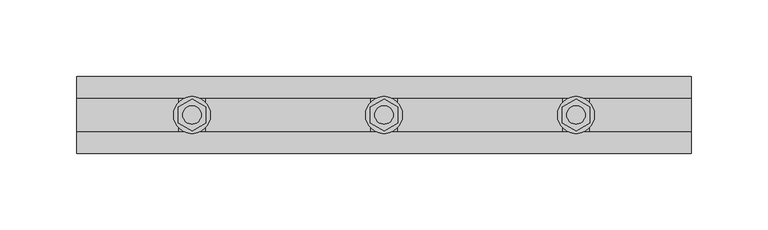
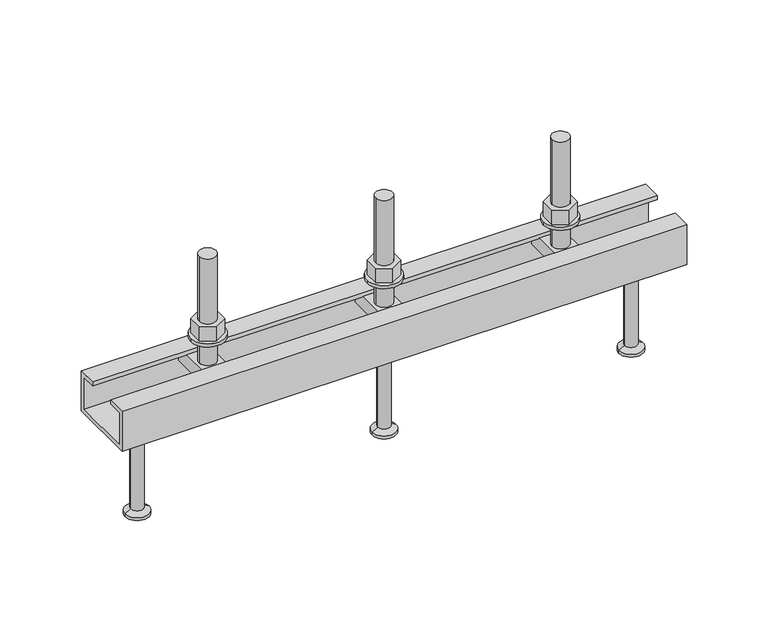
"""IFC4 building model written with IfcOpenShell, lengths in millimetres: fastener geometry, JTA-K JORDAHL® AnchorChannels : JTA-K L=400 mm."""

from ifc_helpers import new_model, si_unit, point, frame, frame_2d, origin, place, context, project, spatial, polyline, circle_curve, trimmed, segment, composite_curve, outline, extrude, source, transform, mapped, element, save
from ifc_brep_helpers import plane_surface, cylinder_surface, revolved_surface, advanced_brep


def fastener_8c050877(model_context):
    return source(origin(), model_context, "Body", "SolidModel", [
        extrude(outline(polyline([(200.0, -10.3923048), (191.0, -5.1961524), (191.0, 5.1961524), (200.0, 10.3923048), (209.0, 5.1961524), (209.0, -5.1961524), (200.0, -10.3923048)]), holes=[composite_curve([segment(trimmed(circle_curve(frame_2d((200.0, 0.0)), 6.0), [point((194.0, 0.0))], [point((206.0, 0.0))], True, "CARTESIAN"), True, "CONTINUOUS"), segment(trimmed(circle_curve(frame_2d((200.0, 0.0)), 6.0), [point((206.0, 0.0))], [point((194.0, 0.0))], True, "CARTESIAN"), True, "CONTINUOUS")], self_intersect=False)]), frame((0.0, 0.0, 17.5), z_axis=(0.0, 0.0, 1.0), x_axis=(1.0, 0.0, 0.0)), (0.0, 0.0, 1.0), 10.8),
        extrude(outline(composite_curve([segment(trimmed(circle_curve(frame_2d((200.0, 0.0)), 12.0), [point((188.0, 0.0))], [point((212.0, 0.0))], False, "CARTESIAN"), True, "CONTINUOUS"), segment(trimmed(circle_curve(frame_2d((200.0, 0.0)), 12.0), [point((212.0, 0.0))], [point((188.0, 0.0))], False, "CARTESIAN"), True, "CONTINUOUS")], self_intersect=False), holes=[composite_curve([segment(trimmed(circle_curve(frame_2d((200.0, 0.0)), 6.5), [point((193.5, 0.0))], [point((206.5, 0.0))], True, "CARTESIAN"), True, "CONTINUOUS"), segment(trimmed(circle_curve(frame_2d((200.0, 0.0)), 6.5), [point((206.5, 0.0))], [point((193.5, 0.0))], True, "CARTESIAN"), True, "CONTINUOUS")], self_intersect=False)]), frame((0.0, 0.0, 15.0), z_axis=(0.0, 0.0, 1.0), x_axis=(1.0, 0.0, 0.0)), (0.0, 0.0, 1.0), 2.5),
        advanced_brep(
        [(208.5, -20.7, -3.0), (208.5, -20.7, -13.0), (208.5, 20.7, -13.0), (208.5, 20.7, -3.0), (191.5, -20.7, -3.0), (191.5, 20.7, -3.0), (191.5, 20.7, -13.0), (191.5, -20.7, -13.0), (206.0, 0.0, -3.0), (194.0, 0.0, -3.0), (194.0, 0.0, 77.0), (206.0, 0.0, 77.0)],
        [
            (0, 1),
            (1, 2),
            (2, 3),
            (3, 0),
            (4, 5),
            (5, 6),
            (6, 7),
            (7, 4),
            (3, 5),
            (4, 0),
            (8, 9, circle_curve(frame((200.0, 0.0, -3.0), z_axis=(0.0, 0.0, -1.0), x_axis=(1.0, 0.0, 0.0)), 6.0)),
            (9, 8, circle_curve(frame((200.0, 0.0, -3.0), z_axis=(0.0, 0.0, -1.0), x_axis=(1.0, 0.0, 0.0)), 6.0)),
            (2, 6),
            (1, 7),
            (10, 11, circle_curve(frame((200.0, 0.0, 77.0), z_axis=(0.0, 0.0, 1.0), x_axis=(1.0, 0.0, 0.0)), 6.0)),
            (11, 10, circle_curve(frame((200.0, 0.0, 77.0), z_axis=(0.0, 0.0, 1.0), x_axis=(1.0, 0.0, 0.0)), 6.0)),
            (11, 8),
            (9, 10),
        ],
        [
            plane_surface(frame((208.5, 20.7, -3.0), z_axis=(1.0, 0.0, 0.0), x_axis=(0.0, 1.0, 0.0))),
            plane_surface(frame((191.5, 20.7, -3.0), z_axis=(-1.0, 0.0, 0.0), x_axis=(0.0, -1.0, 0.0))),
            plane_surface(frame((208.5, -20.7, -3.0), z_axis=(0.0, 0.0, 1.0), x_axis=(-1.0, 0.0, 0.0))),
            plane_surface(frame((208.5, 20.7, -3.0), z_axis=(0.0, 1.0, 0.0), x_axis=(-1.0, 0.0, 0.0))),
            plane_surface(frame((208.5, 20.7, -13.0), z_axis=(0.0, 0.0, -1.0), x_axis=(-1.0, 0.0, 0.0))),
            plane_surface(frame((208.5, -20.7, -13.0), z_axis=(0.0, -1.0, 0.0), x_axis=(-1.0, 0.0, 0.0))),
            plane_surface(frame((206.0, 0.0, 77.0), z_axis=(0.0, 0.0, 1.0), x_axis=(0.0, -1.0, 0.0))),
            cylinder_surface(frame((200.0, 0.0, -3.0), z_axis=(0.0, 0.0, 1.0), x_axis=(1.0, 0.0, 0.0)), 6.0),
        ],
        [
            (0, [[1, 2, 3, 4]]),
            (1, [[5, 6, 7, 8]]),
            (2, [[9, -5, 10, -4], [11, 12]]),
            (3, [[13, -6, -9, -3]]),
            (4, [[14, -7, -13, -2]]),
            (5, [[-10, -8, -14, -1]]),
            (6, [[15, 16]]),
            (7, [[17, -12, 18, -16]]),
            (7, [[-18, -11, -17, -15]]),
        ],
    ),
        advanced_brep(
        [(200.0, 0.0, -30.0), (186.5, 0.0, -30.0), (213.5, 0.0, -30.0), (191.5, 0.0, -100.0), (200.0, 0.0, -100.0), (208.5, 0.0, -100.0), (191.5, 0.0, -98.0), (208.5, 0.0, -98.0), (195.5, 0.0, -95.6905989), (204.5, 0.0, -95.6905989), (195.5, 0.0, -32.5), (204.5, 0.0, -32.5)],
        [
            (0, 1),
            (1, 2, circle_curve(frame((200.0, 0.0, -30.0), z_axis=(0.0, 0.0, 1.0), x_axis=(1.0, 0.0, 0.0)), 13.5)),
            (2, 0),
            (2, 1, circle_curve(frame((200.0, 0.0, -30.0), z_axis=(0.0, 0.0, 1.0), x_axis=(1.0, 0.0, 0.0)), 13.5)),
            (3, 4),
            (4, 5),
            (5, 3, circle_curve(frame((200.0, 0.0, -100.0), z_axis=(0.0, 0.0, -1.0), x_axis=(1.0, 0.0, 0.0)), 8.5)),
            (3, 5, circle_curve(frame((200.0, 0.0, -100.0), z_axis=(0.0, 0.0, -1.0), x_axis=(1.0, 0.0, 0.0)), 8.5)),
            (6, 3),
            (5, 7),
            (7, 6, circle_curve(frame((200.0, 0.0, -98.0), z_axis=(0.0, 0.0, -1.0), x_axis=(1.0, 0.0, 0.0)), 8.5)),
            (6, 7, circle_curve(frame((200.0, 0.0, -98.0), z_axis=(0.0, 0.0, -1.0), x_axis=(1.0, 0.0, 0.0)), 8.5)),
            (8, 6),
            (7, 9),
            (9, 8, circle_curve(frame((200.0, 0.0, -95.6905989), z_axis=(0.0, 0.0, -1.0), x_axis=(1.0, 0.0, 0.0)), 4.5)),
            (8, 9, circle_curve(frame((200.0, 0.0, -95.6905989), z_axis=(0.0, 0.0, -1.0), x_axis=(1.0, 0.0, 0.0)), 4.5)),
            (10, 8),
            (9, 11),
            (11, 10, circle_curve(frame((200.0, 0.0, -32.5), z_axis=(0.0, 0.0, -1.0), x_axis=(1.0, 0.0, 0.0)), 4.5)),
            (10, 11, circle_curve(frame((200.0, 0.0, -32.5), z_axis=(0.0, 0.0, -1.0), x_axis=(1.0, 0.0, 0.0)), 4.5)),
            (1, 10),
            (11, 2),
        ],
        [
            plane_surface(frame((200.0, 0.0, -30.0), z_axis=(0.0, 0.0, 1.0), x_axis=(1.0, 0.0, 0.0))),
            plane_surface(frame((200.0, 0.0, -100.0), z_axis=(0.0, 0.0, -1.0), x_axis=(1.0, 0.0, 0.0))),
            cylinder_surface(frame((200.0, 0.0, 2284.3150031), z_axis=(0.0, 0.0, 1.0), x_axis=(1.0, 0.0, 0.0)), 8.5),
            revolved_surface(polyline([(208.5, 0.0, -98.0), (204.5, 0.0, -95.6905989)]), (200.0, 0.0, 2284.3150031), (0.0, 0.0, 1.0)),
            cylinder_surface(frame((200.0, 0.0, 2284.3150031), z_axis=(0.0, 0.0, 1.0), x_axis=(1.0, 0.0, 0.0)), 4.5),
            revolved_surface(polyline([(204.5, 0.0, -32.5), (213.5, 0.0, -30.0)]), (200.0, 0.0, 2284.3150031), (0.0, 0.0, 1.0)),
        ],
        [
            (0, [[1, 2, 3]]),
            (0, [[-3, 4, -1]]),
            (1, [[5, 6, 7]]),
            (1, [[-6, -5, 8]]),
            (2, [[9, -7, 10, 11]]),
            (2, [[-10, -8, -9, 12]]),
            (3, [[13, -11, 14, 15]]),
            (3, [[-14, -12, -13, 16]]),
            (4, [[17, -15, 18, 19]]),
            (4, [[-18, -16, -17, 20]]),
            (5, [[21, -19, 22, -2]]),
            (5, [[-22, -20, -21, -4]]),
        ],
    ),
        extrude(outline(polyline([(325.0, -10.3923048), (316.0, -5.1961524), (316.0, 5.1961524), (325.0, 10.3923048), (334.0, 5.1961524), (334.0, -5.1961524), (325.0, -10.3923048)]), holes=[composite_curve([segment(trimmed(circle_curve(frame_2d((325.0, 0.0)), 6.0), [point((319.0, 0.0))], [point((331.0, 0.0))], True, "CARTESIAN"), True, "CONTINUOUS"), segment(trimmed(circle_curve(frame_2d((325.0, 0.0)), 6.0), [point((331.0, 0.0))], [point((319.0, 0.0))], True, "CARTESIAN"), True, "CONTINUOUS")], self_intersect=False)]), frame((0.0, 0.0, 17.5), z_axis=(0.0, 0.0, 1.0), x_axis=(1.0, 0.0, 0.0)), (0.0, 0.0, 1.0), 10.8),
        extrude(outline(composite_curve([segment(trimmed(circle_curve(frame_2d((325.0, 0.0)), 12.0), [point((313.0, 0.0))], [point((337.0, 0.0))], False, "CARTESIAN"), True, "CONTINUOUS"), segment(trimmed(circle_curve(frame_2d((325.0, 0.0)), 12.0), [point((337.0, 0.0))], [point((313.0, 0.0))], False, "CARTESIAN"), True, "CONTINUOUS")], self_intersect=False), holes=[composite_curve([segment(trimmed(circle_curve(frame_2d((325.0, 0.0)), 6.5), [point((318.5, 0.0))], [point((331.5, 0.0))], True, "CARTESIAN"), True, "CONTINUOUS"), segment(trimmed(circle_curve(frame_2d((325.0, 0.0)), 6.5), [point((331.5, 0.0))], [point((318.5, 0.0))], True, "CARTESIAN"), True, "CONTINUOUS")], self_intersect=False)]), frame((0.0, 0.0, 15.0), z_axis=(0.0, 0.0, 1.0), x_axis=(1.0, 0.0, 0.0)), (0.0, 0.0, 1.0), 2.5),
        extrude(outline(polyline([(75.0, -10.3923048), (66.0, -5.1961524), (66.0, 5.1961524), (75.0, 10.3923048), (84.0, 5.1961524), (84.0, -5.1961524), (75.0, -10.3923048)]), holes=[composite_curve([segment(trimmed(circle_curve(frame_2d((75.0, 0.0)), 6.0), [point((69.0, 0.0))], [point((81.0, 0.0))], True, "CARTESIAN"), True, "CONTINUOUS"), segment(trimmed(circle_curve(frame_2d((75.0, 0.0)), 6.0), [point((81.0, 0.0))], [point((69.0, 0.0))], True, "CARTESIAN"), True, "CONTINUOUS")], self_intersect=False)]), frame((0.0, 0.0, 17.5), z_axis=(0.0, 0.0, 1.0), x_axis=(1.0, 0.0, 0.0)), (0.0, 0.0, 1.0), 10.8),
        extrude(outline(composite_curve([segment(trimmed(circle_curve(frame_2d((75.0, 0.0)), 12.0), [point((63.0, 0.0))], [point((87.0, 0.0))], False, "CARTESIAN"), True, "CONTINUOUS"), segment(trimmed(circle_curve(frame_2d((75.0, 0.0)), 12.0), [point((87.0, 0.0))], [point((63.0, 0.0))], False, "CARTESIAN"), True, "CONTINUOUS")], self_intersect=False), holes=[composite_curve([segment(trimmed(circle_curve(frame_2d((75.0, 0.0)), 6.5), [point((68.5, 0.0))], [point((81.5, 0.0))], True, "CARTESIAN"), True, "CONTINUOUS"), segment(trimmed(circle_curve(frame_2d((75.0, 0.0)), 6.5), [point((81.5, 0.0))], [point((68.5, 0.0))], True, "CARTESIAN"), True, "CONTINUOUS")], self_intersect=False)]), frame((0.0, 0.0, 15.0), z_axis=(0.0, 0.0, 1.0), x_axis=(1.0, 0.0, 0.0)), (0.0, 0.0, 1.0), 2.5),
        advanced_brep(
        [(333.5, -20.7, -3.0), (333.5, -20.7, -13.0), (333.5, 20.7, -13.0), (333.5, 20.7, -3.0), (316.5, -20.7, -3.0), (316.5, 20.7, -3.0), (316.5, 20.7, -13.0), (316.5, -20.7, -13.0), (331.0, 0.0, -3.0), (319.0, 0.0, -3.0), (319.0, 0.0, 77.0), (331.0, 0.0, 77.0)],
        [
            (0, 1),
            (1, 2),
            (2, 3),
            (3, 0),
            (4, 5),
            (5, 6),
            (6, 7),
            (7, 4),
            (3, 5),
            (4, 0),
            (8, 9, circle_curve(frame((325.0, 0.0, -3.0), z_axis=(0.0, 0.0, -1.0), x_axis=(1.0, 0.0, 0.0)), 6.0)),
            (9, 8, circle_curve(frame((325.0, 0.0, -3.0), z_axis=(0.0, 0.0, -1.0), x_axis=(1.0, 0.0, 0.0)), 6.0)),
            (2, 6),
            (1, 7),
            (10, 11, circle_curve(frame((325.0, 0.0, 77.0), z_axis=(0.0, 0.0, 1.0), x_axis=(1.0, 0.0, 0.0)), 6.0)),
            (11, 10, circle_curve(frame((325.0, 0.0, 77.0), z_axis=(0.0, 0.0, 1.0), x_axis=(1.0, 0.0, 0.0)), 6.0)),
            (11, 8),
            (9, 10),
        ],
        [
            plane_surface(frame((333.5, 20.7, -3.0), z_axis=(1.0, 0.0, 0.0), x_axis=(0.0, 1.0, 0.0))),
            plane_surface(frame((316.5, 20.7, -3.0), z_axis=(-1.0, 0.0, 0.0), x_axis=(0.0, -1.0, 0.0))),
            plane_surface(frame((333.5, -20.7, -3.0), z_axis=(0.0, 0.0, 1.0), x_axis=(-1.0, 0.0, 0.0))),
            plane_surface(frame((333.5, 20.7, -3.0), z_axis=(0.0, 1.0, 0.0), x_axis=(-1.0, 0.0, 0.0))),
            plane_surface(frame((333.5, 20.7, -13.0), z_axis=(0.0, 0.0, -1.0), x_axis=(-1.0, 0.0, 0.0))),
            plane_surface(frame((333.5, -20.7, -13.0), z_axis=(0.0, -1.0, 0.0), x_axis=(-1.0, 0.0, 0.0))),
            plane_surface(frame((331.0, 0.0, 77.0), z_axis=(0.0, 0.0, 1.0), x_axis=(0.0, -1.0, 0.0))),
            cylinder_surface(frame((325.0, 0.0, -3.0), z_axis=(0.0, 0.0, 1.0), x_axis=(1.0, 0.0, 0.0)), 6.0),
        ],
        [
            (0, [[1, 2, 3, 4]]),
            (1, [[5, 6, 7, 8]]),
            (2, [[9, -5, 10, -4], [11, 12]]),
            (3, [[13, -6, -9, -3]]),
            (4, [[14, -7, -13, -2]]),
            (5, [[-10, -8, -14, -1]]),
            (6, [[15, 16]]),
            (7, [[17, -12, 18, -16]]),
            (7, [[-18, -11, -17, -15]]),
        ],
    ),
        advanced_brep(
        [(83.5, -20.7, -3.0), (83.5, -20.7, -13.0), (83.5, 20.7, -13.0), (83.5, 20.7, -3.0), (66.5, -20.7, -3.0), (66.5, 20.7, -3.0), (66.5, 20.7, -13.0), (66.5, -20.7, -13.0), (81.0, 0.0, -3.0), (69.0, 0.0, -3.0), (69.0, 0.0, 77.0), (81.0, 0.0, 77.0)],
        [
            (0, 1),
            (1, 2),
            (2, 3),
            (3, 0),
            (4, 5),
            (5, 6),
            (6, 7),
            (7, 4),
            (3, 5),
            (4, 0),
            (8, 9, circle_curve(frame((75.0, 0.0, -3.0), z_axis=(0.0, 0.0, -1.0), x_axis=(1.0, 0.0, 0.0)), 6.0)),
            (9, 8, circle_curve(frame((75.0, 0.0, -3.0), z_axis=(0.0, 0.0, -1.0), x_axis=(1.0, 0.0, 0.0)), 6.0)),
            (2, 6),
            (1, 7),
            (10, 11, circle_curve(frame((75.0, 0.0, 77.0), z_axis=(0.0, 0.0, 1.0), x_axis=(1.0, 0.0, 0.0)), 6.0)),
            (11, 10, circle_curve(frame((75.0, 0.0, 77.0), z_axis=(0.0, 0.0, 1.0), x_axis=(1.0, 0.0, 0.0)), 6.0)),
            (11, 8),
            (9, 10),
        ],
        [
            plane_surface(frame((83.5, 20.7, -3.0), z_axis=(1.0, 0.0, 0.0), x_axis=(0.0, 1.0, 0.0))),
            plane_surface(frame((66.5, 20.7, -3.0), z_axis=(-1.0, 0.0, 0.0), x_axis=(0.0, -1.0, 0.0))),
            plane_surface(frame((83.5, -20.7, -3.0), z_axis=(0.0, 0.0, 1.0), x_axis=(-1.0, 0.0, 0.0))),
            plane_surface(frame((83.5, 20.7, -3.0), z_axis=(0.0, 1.0, 0.0), x_axis=(-1.0, 0.0, 0.0))),
            plane_surface(frame((83.5, 20.7, -13.0), z_axis=(0.0, 0.0, -1.0), x_axis=(-1.0, 0.0, 0.0))),
            plane_surface(frame((83.5, -20.7, -13.0), z_axis=(0.0, -1.0, 0.0), x_axis=(-1.0, 0.0, 0.0))),
            plane_surface(frame((81.0, 0.0, 77.0), z_axis=(0.0, 0.0, 1.0), x_axis=(0.0, -1.0, 0.0))),
            cylinder_surface(frame((75.0, 0.0, -3.0), z_axis=(0.0, 0.0, 1.0), x_axis=(1.0, 0.0, 0.0)), 6.0),
        ],
        [
            (0, [[1, 2, 3, 4]]),
            (1, [[5, 6, 7, 8]]),
            (2, [[9, -5, 10, -4], [11, 12]]),
            (3, [[13, -6, -9, -3]]),
            (4, [[14, -7, -13, -2]]),
            (5, [[-10, -8, -14, -1]]),
            (6, [[15, 16]]),
            (7, [[17, -12, 18, -16]]),
            (7, [[-18, -11, -17, -15]]),
        ],
    ),
        advanced_brep(
        [(375.0, 0.0, -30.0), (361.5, 0.0, -30.0), (388.5, 0.0, -30.0), (366.5, 0.0, -100.0), (375.0, 0.0, -100.0), (383.5, 0.0, -100.0), (366.5, 0.0, -98.0), (383.5, 0.0, -98.0), (370.5, 0.0, -95.6905989), (379.5, 0.0, -95.6905989), (370.5, 0.0, -32.5), (379.5, 0.0, -32.5)],
        [
            (0, 1),
            (1, 2, circle_curve(frame((375.0, 0.0, -30.0), z_axis=(0.0, 0.0, 1.0), x_axis=(1.0, 0.0, 0.0)), 13.5)),
            (2, 0),
            (2, 1, circle_curve(frame((375.0, 0.0, -30.0), z_axis=(0.0, 0.0, 1.0), x_axis=(1.0, 0.0, 0.0)), 13.5)),
            (3, 4),
            (4, 5),
            (5, 3, circle_curve(frame((375.0, 0.0, -100.0), z_axis=(0.0, 0.0, -1.0), x_axis=(1.0, 0.0, 0.0)), 8.5)),
            (3, 5, circle_curve(frame((375.0, 0.0, -100.0), z_axis=(0.0, 0.0, -1.0), x_axis=(1.0, 0.0, 0.0)), 8.5)),
            (6, 3),
            (5, 7),
            (7, 6, circle_curve(frame((375.0, 0.0, -98.0), z_axis=(0.0, 0.0, -1.0), x_axis=(1.0, 0.0, 0.0)), 8.5)),
            (6, 7, circle_curve(frame((375.0, 0.0, -98.0), z_axis=(0.0, 0.0, -1.0), x_axis=(1.0, 0.0, 0.0)), 8.5)),
            (8, 6),
            (7, 9),
            (9, 8, circle_curve(frame((375.0, 0.0, -95.6905989), z_axis=(0.0, 0.0, -1.0), x_axis=(1.0, 0.0, 0.0)), 4.5)),
            (8, 9, circle_curve(frame((375.0, 0.0, -95.6905989), z_axis=(0.0, 0.0, -1.0), x_axis=(1.0, 0.0, 0.0)), 4.5)),
            (10, 8),
            (9, 11),
            (11, 10, circle_curve(frame((375.0, 0.0, -32.5), z_axis=(0.0, 0.0, -1.0), x_axis=(1.0, 0.0, 0.0)), 4.5)),
            (10, 11, circle_curve(frame((375.0, 0.0, -32.5), z_axis=(0.0, 0.0, -1.0), x_axis=(1.0, 0.0, 0.0)), 4.5)),
            (1, 10),
            (11, 2),
        ],
        [
            plane_surface(frame((375.0, 0.0, -30.0), z_axis=(0.0, 0.0, 1.0), x_axis=(1.0, 0.0, 0.0))),
            plane_surface(frame((375.0, 0.0, -100.0), z_axis=(0.0, 0.0, -1.0), x_axis=(1.0, 0.0, 0.0))),
            cylinder_surface(frame((375.0, 0.0, 2284.3150031), z_axis=(0.0, 0.0, 1.0), x_axis=(1.0, 0.0, 0.0)), 8.5),
            revolved_surface(polyline([(383.5, 0.0, -98.0), (379.5, 0.0, -95.6905989)]), (375.0, 0.0, 2284.3150031), (0.0, 0.0, 1.0)),
            cylinder_surface(frame((375.0, 0.0, 2284.3150031), z_axis=(0.0, 0.0, 1.0), x_axis=(1.0, 0.0, 0.0)), 4.5),
            revolved_surface(polyline([(379.5, 0.0, -32.5), (388.5, 0.0, -30.0)]), (375.0, 0.0, 2284.3150031), (0.0, 0.0, 1.0)),
        ],
        [
            (0, [[1, 2, 3]]),
            (0, [[-3, 4, -1]]),
            (1, [[5, 6, 7]]),
            (1, [[-6, -5, 8]]),
            (2, [[9, -7, 10, 11]]),
            (2, [[-10, -8, -9, 12]]),
            (3, [[13, -11, 14, 15]]),
            (3, [[-14, -12, -13, 16]]),
            (4, [[17, -15, 18, 19]]),
            (4, [[-18, -16, -17, 20]]),
            (5, [[21, -19, 22, -2]]),
            (5, [[-22, -20, -21, -4]]),
        ],
    ),
        advanced_brep(
        [(25.0, 0.0, -30.0), (11.5, 0.0, -30.0), (38.5, 0.0, -30.0), (16.5, 0.0, -100.0), (25.0, 0.0, -100.0), (33.5, 0.0, -100.0), (16.5, 0.0, -98.0), (33.5, 0.0, -98.0), (20.5, 0.0, -95.6905989), (29.5, 0.0, -95.6905989), (20.5, 0.0, -32.5), (29.5, 0.0, -32.5)],
        [
            (0, 1),
            (1, 2, circle_curve(frame((25.0, 0.0, -30.0), z_axis=(0.0, 0.0, 1.0), x_axis=(1.0, 0.0, 0.0)), 13.5)),
            (2, 0),
            (2, 1, circle_curve(frame((25.0, 0.0, -30.0), z_axis=(0.0, 0.0, 1.0), x_axis=(1.0, 0.0, 0.0)), 13.5)),
            (3, 4),
            (4, 5),
            (5, 3, circle_curve(frame((25.0, 0.0, -100.0), z_axis=(0.0, 0.0, -1.0), x_axis=(1.0, 0.0, 0.0)), 8.5)),
            (3, 5, circle_curve(frame((25.0, 0.0, -100.0), z_axis=(0.0, 0.0, -1.0), x_axis=(1.0, 0.0, 0.0)), 8.5)),
            (6, 3),
            (5, 7),
            (7, 6, circle_curve(frame((25.0, 0.0, -98.0), z_axis=(0.0, 0.0, -1.0), x_axis=(1.0, 0.0, 0.0)), 8.5)),
            (6, 7, circle_curve(frame((25.0, 0.0, -98.0), z_axis=(0.0, 0.0, -1.0), x_axis=(1.0, 0.0, 0.0)), 8.5)),
            (8, 6),
            (7, 9),
            (9, 8, circle_curve(frame((25.0, 0.0, -95.6905989), z_axis=(0.0, 0.0, -1.0), x_axis=(1.0, 0.0, 0.0)), 4.5)),
            (8, 9, circle_curve(frame((25.0, 0.0, -95.6905989), z_axis=(0.0, 0.0, -1.0), x_axis=(1.0, 0.0, 0.0)), 4.5)),
            (10, 8),
            (9, 11),
            (11, 10, circle_curve(frame((25.0, 0.0, -32.5), z_axis=(0.0, 0.0, -1.0), x_axis=(1.0, 0.0, 0.0)), 4.5)),
            (10, 11, circle_curve(frame((25.0, 0.0, -32.5), z_axis=(0.0, 0.0, -1.0), x_axis=(1.0, 0.0, 0.0)), 4.5)),
            (1, 10),
            (11, 2),
        ],
        [
            plane_surface(frame((25.0, 0.0, -30.0), z_axis=(0.0, 0.0, 1.0), x_axis=(1.0, 0.0, 0.0))),
            plane_surface(frame((25.0, 0.0, -100.0), z_axis=(0.0, 0.0, -1.0), x_axis=(1.0, 0.0, 0.0))),
            cylinder_surface(frame((25.0, 0.0, 2284.3150031), z_axis=(0.0, 0.0, 1.0), x_axis=(1.0, 0.0, 0.0)), 8.5),
            revolved_surface(polyline([(33.5, 0.0, -98.0), (29.5, 0.0, -95.6905989)]), (25.0, 0.0, 2284.3150031), (0.0, 0.0, 1.0)),
            cylinder_surface(frame((25.0, 0.0, 2284.3150031), z_axis=(0.0, 0.0, 1.0), x_axis=(1.0, 0.0, 0.0)), 4.5),
            revolved_surface(polyline([(29.5, 0.0, -32.5), (38.5, 0.0, -30.0)]), (25.0, 0.0, 2284.3150031), (0.0, 0.0, 1.0)),
        ],
        [
            (0, [[1, 2, 3]]),
            (0, [[-3, 4, -1]]),
            (1, [[5, 6, 7]]),
            (1, [[-6, -5, 8]]),
            (2, [[9, -7, 10, 11]]),
            (2, [[-10, -8, -9, 12]]),
            (3, [[13, -11, 14, 15]]),
            (3, [[-14, -12, -13, 16]]),
            (4, [[17, -15, 18, 19]]),
            (4, [[-18, -16, -17, 20]]),
            (5, [[21, -19, 22, -2]]),
            (5, [[-22, -20, -21, -4]]),
        ],
    ),
        extrude(outline(polyline([(-25.0, 0.0), (-11.0, 0.0), (-11.0, -3.0), (-22.0, -3.0), (-22.0, -27.0), (22.0, -27.0), (22.0, -3.0), (11.0, -3.0), (11.0, 0.0), (25.0, 0.0), (25.0, -30.0), (-25.0, -30.0), (-25.0, 0.0)])), frame((0.0, 0.0, 0.0), z_axis=(1.0, 0.0, 0.0), x_axis=(0.0, 1.0, 0.0)), (0.0, 0.0, 1.0), 400.0),
    ])


if __name__ == "__main__":
    model = new_model("IFC4")
    model_context = context("Model", 3, world=origin())
    ifc_project = project(units=[si_unit("LENGTHUNIT", "METRE", prefix="MILLI")], contexts=[model_context])
    site = spatial("IfcSite", under=ifc_project)
    building = spatial("IfcBuilding", under=site)
    placement = place(None, origin())
    fastener_shape = fastener_8c050877(model_context)
    element("IfcFastener", 1, ObjectType="JTA-K JORDAHL® AnchorChannels : JTA-K L=400 mm", at=placement, inside=building, context=model_context, shape_type="MappedRepresentation", body=[
        mapped(fastener_shape, transform((0.0, 0.0, 0.0), x_axis=(1.0, 0.0, 0.0), y_axis=(0.0, 1.0, 0.0), z_axis=(0.0, 0.0, 1.0))),
    ])
    save(model, "model.ifc")
